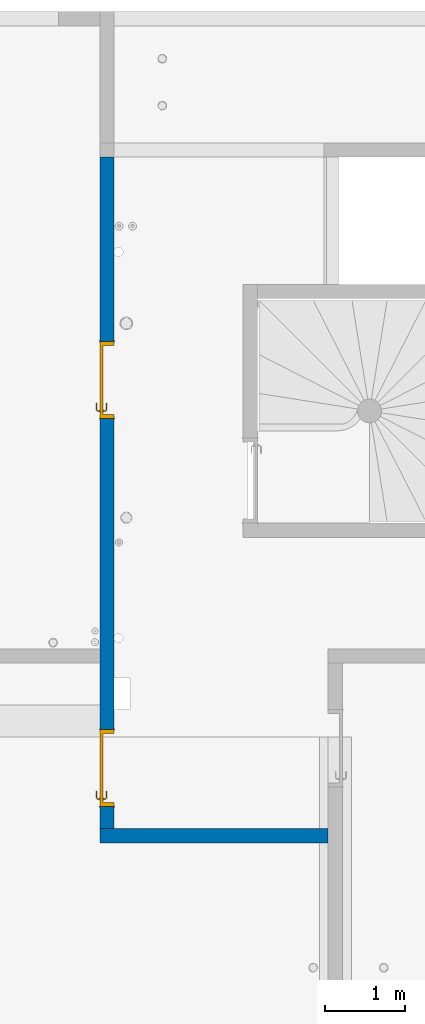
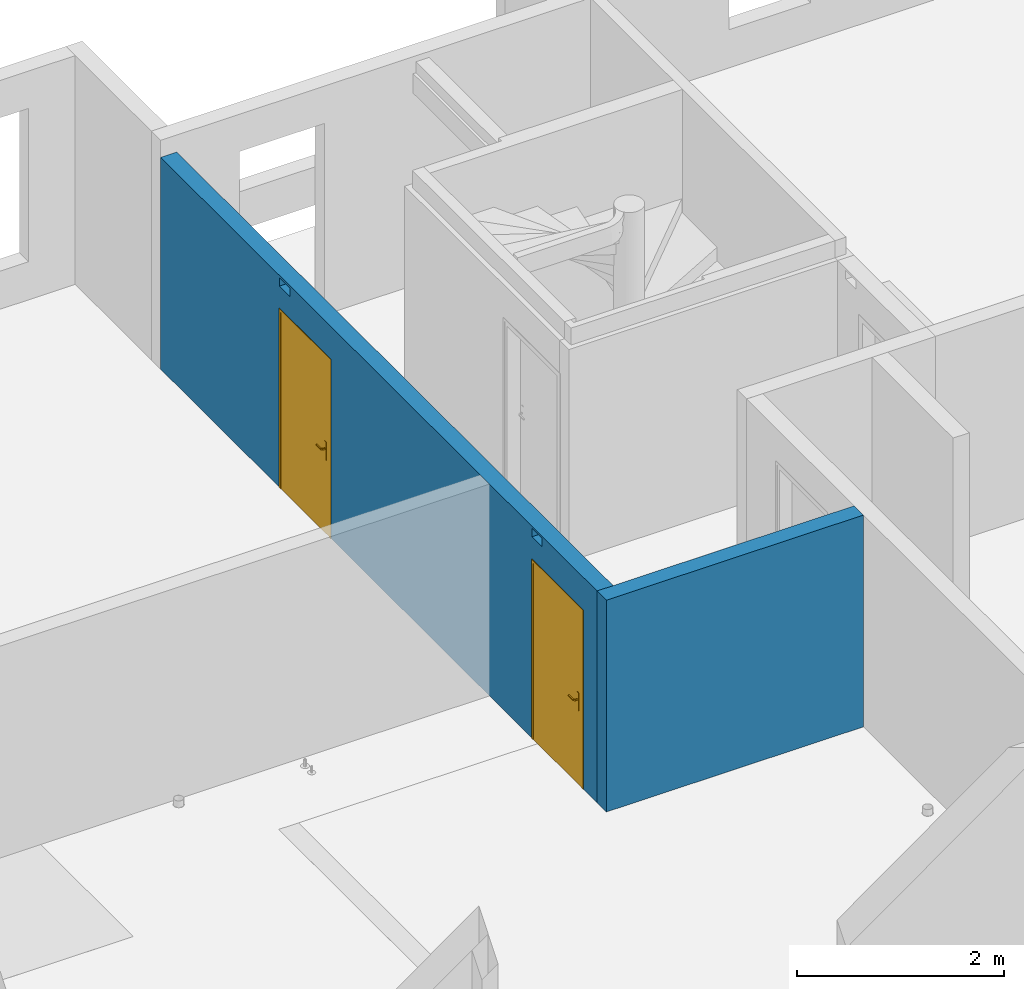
# One storey, part 14 of 34: 2 doors, 2 walls, 4 openings.
"""IFC2X3 building model written with IfcOpenShell, lengths in centimetres."""

import ifcopenshell
import ifcopenshell.guid

model = None  # the IFC model being written
_history = None  # IfcOwnerHistory: only IFC2X3 demands one
_inside = {}  # id of a spatial element -> (the spatial element, [elements in it])
_under = {}  # id of a project, library or spatial element -> (it, [spatial elements below it])
_declared = {}  # id of a project -> (the project, [libraries it declares])
_typed = {}  # id of a type object -> (the type object, [elements of that type])
_made_of = {}  # id of a material, layer set ... -> (it, [elements and type objects made of it])


def new_model(schema):
    """Start an empty IFC model of exactly this schema.

    Asked for "IFC4X3", IfcOpenShell would pick the latest addendum, in which some entities
    have other attributes; the version numbers below select the first issue.
    IFC2X3 requires an IfcOwnerHistory on every rooted entity: one is made here for all.
    """
    global model, _history
    if schema == "IFC4X3":
        model = ifcopenshell.file(schema_version=(4, 3, 0, 0))
    else:
        model = ifcopenshell.file(schema=schema)
    _inside.clear()
    _under.clear()
    _declared.clear()
    _typed.clear()
    _made_of.clear()
    _history = None
    if model.schema == "IFC2X3":
        org = make("IfcOrganization", Name="unknown")
        user = make(
            "IfcPersonAndOrganization",
            ThePerson=make("IfcPerson", FamilyName="unknown"),
            TheOrganization=org,
        )
        app = make(
            "IfcApplication",
            ApplicationDeveloper=org,
            Version="unknown",
            ApplicationFullName="unknown",
            ApplicationIdentifier="unknown",
        )
        _history = make(
            "IfcOwnerHistory",
            OwningUser=user,
            OwningApplication=app,
            ChangeAction="ADDED",
            CreationDate=0,
        )
    return model


def make(cls, **values):
    """One entity of the class cls with the attributes given. An attribute that is None is left unset."""
    return model.create_entity(
        cls, **{name: value for name, value in values.items() if value is not None}
    )


def entity(cls, *values):
    """Any entity or typed value of the class cls, its attributes in the order of the schema. None: left unset."""
    e = model.create_entity(cls)
    for i, value in enumerate(values):
        if value is not None:
            e[i] = value
    return e


def rooted(cls, **values):
    """An entity with a GlobalId (a new one), such as an element, a storey or a relation."""
    return make(cls, GlobalId=ifcopenshell.guid.new(), OwnerHistory=_history, **values)


def si_unit(unit_type, name, prefix=None):
    """IfcSIUnit, for example si_unit("LENGTHUNIT", "METRE", prefix="MILLI")."""
    return make("IfcSIUnit", UnitType=unit_type, Prefix=prefix, Name=name)


def converted_unit(unit_type, name, factor, base, dimensions=None, offset=None):
    """IfcConversionBasedUnit, such as the inch: factor (a typed value) times the base unit."""
    return make(
        "IfcConversionBasedUnit"
        if offset is None
        else "IfcConversionBasedUnitWithOffset",
        ConversionOffset=offset,
        Dimensions=None
        if dimensions is None
        else entity("IfcDimensionalExponents", *dimensions),
        UnitType=unit_type,
        Name=name,
        ConversionFactor=make(
            "IfcMeasureWithUnit", ValueComponent=factor, UnitComponent=base
        ),
    )


def derived_unit(unit_type, elements):
    """IfcDerivedUnit: a product of units, each with its exponent."""
    return make(
        "IfcDerivedUnit",
        Elements=[
            make("IfcDerivedUnitElement", Unit=unit, Exponent=power)
            for unit, power in elements
        ],
        UnitType=unit_type,
    )


def assignment(units):
    """IfcUnitAssignment: the units of a project."""
    return None if units is None else make("IfcUnitAssignment", Units=units)


def point(xyz):
    """IfcCartesianPoint."""
    return None if xyz is None else make("IfcCartesianPoint", Coordinates=xyz)


def direction(xyz):
    """IfcDirection."""
    return None if xyz is None else make("IfcDirection", DirectionRatios=xyz)


def frame(location, z_axis=None, x_axis=None):
    """IfcAxis2Placement3D, a coordinate frame: its origin and axes. An axis left out is left unset."""
    return make(
        "IfcAxis2Placement3D",
        Location=point(location),
        Axis=direction(z_axis),
        RefDirection=direction(x_axis),
    )


def frame_2d(location, x_axis=None):
    """IfcAxis2Placement2D, a coordinate frame in the plane: its origin and x axis."""
    return make(
        "IfcAxis2Placement2D", Location=point(location), RefDirection=direction(x_axis)
    )


def origin():
    """The frame at (0, 0, 0) with its axes left unset."""
    return frame((0.0, 0.0, 0.0))


def place(relative_to, where):
    """IfcLocalPlacement: puts the frame where relative to a parent placement (None: the world)."""
    return make(
        "IfcLocalPlacement", PlacementRelTo=relative_to, RelativePlacement=where
    )


def context(
    kind, dimensions, precision=None, world=None, true_north=None, identifier=None
):
    """IfcGeometricRepresentationContext, for example the 3D "Model" context."""
    return make(
        "IfcGeometricRepresentationContext",
        ContextIdentifier=identifier,
        ContextType=kind,
        CoordinateSpaceDimension=dimensions,
        Precision=precision,
        WorldCoordinateSystem=world,
        TrueNorth=true_north,
    )


def subcontext(parent, identifier, kind, view, scale=None):
    """IfcGeometricRepresentationSubContext, for example "Body" below "Model"."""
    return make(
        "IfcGeometricRepresentationSubContext",
        ContextIdentifier=identifier,
        ContextType=kind,
        ParentContext=parent,
        TargetScale=scale,
        TargetView=view,
    )


def project(units=None, contexts=None):
    """IfcProject with its units and contexts."""
    return rooted(
        "IfcProject",
        Name="project",
        RepresentationContexts=contexts,
        UnitsInContext=assignment(units),
    )


def spatial(cls, under=None, at=None, **own):
    """A site, building, storey or space (cls), placed at a placement, below another one or the project."""
    s = rooted(cls, ObjectPlacement=at, **own)
    if under is not None:
        _under.setdefault(under.id(), (under, []))[1].append(s)
    return s


def profile(cls, at=None, kind="AREA", **sizes):
    """A parametric profile (cls). Its sizes go by their IFC names, for example OverallWidth=200.0."""
    return make(cls, ProfileType=kind, Position=at, **sizes)


def rectangle(**sizes):
    """IfcRectangleProfileDef."""
    return profile("IfcRectangleProfileDef", **sizes)


def extrude(swept, where, along, depth):
    """IfcExtrudedAreaSolid: the profile swept, set in the frame where, extruded along a direction by depth."""
    return make(
        "IfcExtrudedAreaSolid",
        SweptArea=swept,
        Position=where,
        ExtrudedDirection=direction(along),
        Depth=depth,
    )


def faces_of(points, faces, orient=None, outer=None):
    """IfcFace entities. A face is a list of loops; a loop is a list of indices into points, from 0.

    orient and outer hold one flag for each loop. By default every Orientation is true, the
    first loop of a face is its IfcFaceOuterBound and the others are IfcFaceBound.
    """
    made = []
    for i, loops in enumerate(faces):
        bounds = []
        for j, loop in enumerate(loops):
            is_outer = j == 0 if outer is None else outer[i][j]
            bounds.append(
                make(
                    "IfcFaceOuterBound" if is_outer else "IfcFaceBound",
                    Bound=make("IfcPolyLoop", Polygon=[points[k] for k in loop]),
                    Orientation=True if orient is None else orient[i][j],
                )
            )
        made.append(make("IfcFace", Bounds=bounds))
    return made


def faceted_brep(points, faces, orient=None, outer=None, voids=None):
    """IfcFacetedBrep: a solid bounded by flat faces; with voids (closed shells), ...WithVoids."""
    shared = [point(p) for p in points]
    hull = make("IfcClosedShell", CfsFaces=faces_of(shared, faces, orient, outer))
    if voids is None:
        return make("IfcFacetedBrep", Outer=hull)
    return make(
        "IfcFacetedBrepWithVoids",
        Outer=hull,
        Voids=[
            make(cls, CfsFaces=faces_of(shared, fs, o, b)) for cls, fs, o, b in voids
        ],
    )


def shape(context_of_items, identifier, shape_type, items):
    """IfcShapeRepresentation: the items that make up one representation, for example the "Body"."""
    return make(
        "IfcShapeRepresentation",
        ContextOfItems=context_of_items,
        RepresentationIdentifier=identifier,
        RepresentationType=shape_type,
        Items=items,
    )


def source(mapping_origin, context_of_items, identifier, shape_type, items):
    """IfcRepresentationMap: a shape defined once, which mapped items show again and again."""
    return make(
        "IfcRepresentationMap",
        MappingOrigin=mapping_origin,
        MappedRepresentation=shape(context_of_items, identifier, shape_type, items),
    )


def transform(
    local_origin,
    x_axis=None,
    y_axis=None,
    z_axis=None,
    scale=None,
    scale2=None,
    scale3=None,
    uniform=True,
):
    """IfcCartesianTransformationOperator3D, or its non-uniform kind. x_axis, y_axis, z_axis: its Axis1, 2, 3."""
    if uniform:
        return make(
            "IfcCartesianTransformationOperator3D",
            Axis1=direction(x_axis),
            Axis2=direction(y_axis),
            LocalOrigin=point(local_origin),
            Scale=scale,
            Axis3=direction(z_axis),
        )
    return make(
        "IfcCartesianTransformationOperator3DnonUniform",
        Axis1=direction(x_axis),
        Axis2=direction(y_axis),
        LocalOrigin=point(local_origin),
        Scale=scale,
        Axis3=direction(z_axis),
        Scale2=scale2,
        Scale3=scale3,
    )


def mapped(mapping_source, mapping_target):
    """IfcMappedItem: shows the shape of a source again, moved by a transform."""
    return make(
        "IfcMappedItem", MappingSource=mapping_source, MappingTarget=mapping_target
    )


def material(Name=None, Category=None):
    """IfcMaterial."""
    return make("IfcMaterial", Name=Name, Category=Category)


def material_list(materials):
    """IfcMaterialList."""
    return make("IfcMaterialList", Materials=materials)


def layer(
    of_material, thickness, ventilated=None, Name=None, Category=None, Priority=None
):
    """IfcMaterialLayer: one layer of a wall or slab, of a material (None: an air gap)."""
    return make(
        "IfcMaterialLayer",
        Material=of_material,
        LayerThickness=thickness,
        IsVentilated=ventilated,
        Name=Name,
        Category=Category,
        Priority=Priority,
    )


def layer_set(layers, Name=None):
    """IfcMaterialLayerSet."""
    return make("IfcMaterialLayerSet", MaterialLayers=layers, LayerSetName=Name)


def layer_usage(for_layer_set, set_direction, sense, offset, extent=None):
    """IfcMaterialLayerSetUsage: how a layer set lies in its element."""
    return make(
        "IfcMaterialLayerSetUsage",
        ForLayerSet=for_layer_set,
        LayerSetDirection=set_direction,
        DirectionSense=sense,
        OffsetFromReferenceLine=offset,
        ReferenceExtent=extent,
    )


def made_of(thing, what):
    """Note that an element or type object is made of a material, layer set ...; save() writes the relation."""
    if what is not None:
        _made_of.setdefault(what.id(), (what, []))[1].append(thing)
    return thing


def type_object(cls, material=None, **own):
    """A type object (cls), such as IfcWallType, which elements share."""
    return made_of(rooted(cls, **own), material)


def type_shapes(of_type, sources):
    """Give a type object the sources (RepresentationMaps) that its elements show as mapped items."""
    of_type.RepresentationMaps = sources


def element(
    cls,
    number,
    at=None,
    inside=None,
    cuts=None,
    type_object=None,
    material=None,
    context=None,
    identifier="Body",
    shape_type=None,
    held_by="IfcProductDefinitionShape",
    body=None,
    shapes=None,
    **own,
):
    """One element of the class cls, such as IfcWall. Its Tag is "e" and its number.

    at: its placement. inside: the storey or other place that contains it. cuts: it is an
    opening in that element (IfcRelVoidsElement). A single representation is given by context,
    identifier, shape_type and body (its items); several are given by shapes. held_by: the class
    of the entity that holds the representations. save() writes the other relations.
    """
    e = rooted(cls, Tag="e%d" % number, ObjectPlacement=at, **own)
    if body is not None:
        shapes = [shape(context, identifier, shape_type, body)]
    if shapes is not None:
        e.Representation = make(held_by, Representations=shapes)
    if inside is not None:
        _inside.setdefault(inside.id(), (inside, []))[1].append(e)
    if cuts is not None:
        rooted(
            "IfcRelVoidsElement", RelatingBuildingElement=cuts, RelatedOpeningElement=e
        )
    if type_object is not None:
        _typed.setdefault(type_object.id(), (type_object, []))[1].append(e)
    return made_of(e, material)


def fill(opening, filler):
    """IfcRelFillsElement: the door or window that sits in an opening."""
    return rooted(
        "IfcRelFillsElement",
        RelatingOpeningElement=opening,
        RelatedBuildingElement=filler,
    )


def aggregate(whole, parts):
    """IfcRelAggregates: a whole, such as a stair, and the parts it consists of."""
    return rooted("IfcRelAggregates", RelatingObject=whole, RelatedObjects=parts)


def save(model, path):
    """Write the relations noted so far, then the file.

    IfcRelAggregates (storeys below a building ...), IfcRelContainedInSpatialStructure (elements
    in a storey), IfcRelDefinesByType, IfcRelAssociatesMaterial and IfcRelDeclares: one each for
    every whole, place, type object, material and project.
    """
    for whole, parts in _under.values():
        aggregate(whole, parts)
    for where, things in _inside.values():
        rooted(
            "IfcRelContainedInSpatialStructure",
            RelatedElements=things,
            RelatingStructure=where,
        )
    for kind, things in _typed.values():
        rooted("IfcRelDefinesByType", RelatedObjects=things, RelatingType=kind)
    for what, things in _made_of.values():
        rooted("IfcRelAssociatesMaterial", RelatedObjects=things, RelatingMaterial=what)
    for by, libraries in _declared.values():
        rooted("IfcRelDeclares", RelatingContext=by, RelatedDefinitions=libraries)
    model.write(path)


model = new_model("IFC2X3")

# Units and contexts
model_context = context("Model", 3, precision=0.001, world=origin(), true_north=direction((6.12303176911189e-17, 1.0)))
body_context = subcontext(model_context, "Body", "Model", "MODEL_VIEW")
ifc_project = project(units=[si_unit("LENGTHUNIT", "METRE", prefix="CENTI"), si_unit("AREAUNIT", "SQUARE_METRE"), si_unit("VOLUMEUNIT", "CUBIC_METRE"), converted_unit("PLANEANGLEUNIT", "DEGREE", entity("IfcRatioMeasure", 0.0174532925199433), si_unit("PLANEANGLEUNIT", "RADIAN"), dimensions=[0, 0, 0, 0, 0, 0, 0]), si_unit("MASSUNIT", "GRAM", prefix="KILO"), derived_unit("MASSDENSITYUNIT", [(si_unit("MASSUNIT", "GRAM", prefix="KILO"), 1), (si_unit("LENGTHUNIT", "METRE"), -3)]), si_unit("TIMEUNIT", "SECOND"), si_unit("FREQUENCYUNIT", "HERTZ"), si_unit("THERMODYNAMICTEMPERATUREUNIT", "DEGREE_CELSIUS"), derived_unit("THERMALTRANSMITTANCEUNIT", [(si_unit("MASSUNIT", "GRAM", prefix="KILO"), 1), (si_unit("THERMODYNAMICTEMPERATUREUNIT", "KELVIN"), -1), (si_unit("TIMEUNIT", "SECOND"), -3)]), derived_unit("VOLUMETRICFLOWRATEUNIT", [(si_unit("LENGTHUNIT", "METRE"), 3), (si_unit("TIMEUNIT", "SECOND"), -1)]), si_unit("ELECTRICCURRENTUNIT", "AMPERE"), si_unit("ELECTRICVOLTAGEUNIT", "VOLT"), si_unit("POWERUNIT", "WATT"), si_unit("FORCEUNIT", "NEWTON"), si_unit("ILLUMINANCEUNIT", "LUX"), si_unit("LUMINOUSFLUXUNIT", "LUMEN"), si_unit("LUMINOUSINTENSITYUNIT", "CANDELA"), derived_unit("USERDEFINED", [(si_unit("MASSUNIT", "GRAM", prefix="KILO"), -1), (si_unit("LENGTHUNIT", "METRE"), -2), (si_unit("TIMEUNIT", "SECOND"), 3), (si_unit("LUMINOUSFLUXUNIT", "LUMEN"), 1)]), derived_unit("LINEARVELOCITYUNIT", [(si_unit("LENGTHUNIT", "METRE"), 1), (si_unit("TIMEUNIT", "SECOND"), -1)]), si_unit("PRESSUREUNIT", "PASCAL"), derived_unit("USERDEFINED", [(si_unit("LENGTHUNIT", "METRE"), -2), (si_unit("MASSUNIT", "GRAM", prefix="KILO"), 1), (si_unit("TIMEUNIT", "SECOND"), -2)])], contexts=[model_context])

# Site, building, storey
site_placement = place(None, origin())
site = spatial("IfcSite", under=ifc_project, at=site_placement, Name="Default", CompositionType="ELEMENT")
building_placement = place(site_placement, origin())
building = spatial("IfcBuilding", under=site, at=building_placement, Name="CAGE 03", CompositionType="ELEMENT")
storey_placement = place(building_placement, frame((0.0, 0.0, 340.0)))
storey = spatial("IfcBuildingStorey", under=building, at=storey_placement, Name="R+1", CompositionType="ELEMENT", Elevation=340.0)

# Wall
ifc_material_1 = material(Name="Béton, C25/30")
ifc_layer = layer(ifc_material_1, 18.0)
ifc_layer_set = layer_set([ifc_layer], Name="Mur de base:Voile BA 18")
ifc_layer_usage_1 = layer_usage(ifc_layer_set, "AXIS2", "POSITIVE", -9.0)
wall_type = type_object("IfcWallType", Name="Mur de base:Voile BA 18", PredefinedType="STANDARD", material=ifc_layer_set)
wall_1_placement = place(storey_placement, frame((10297.3658201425, 4257.66066607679, 0.0), z_axis=(0.0, 0.0, 1.0), x_axis=(-1.0, 0.0, 0.0)))
element("IfcWallStandardCase", 1, at=wall_1_placement, inside=storey, type_object=wall_type, material=ifc_layer_usage_1, Name="Mur de base:Voile BA 18", ObjectType="Mur de base:Voile BA 18", context=body_context, shape_type="SweptSolid", body=[
    extrude(rectangle(XDim=287.000000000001, YDim=17.9999999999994, at=frame_2d((143.5, -1.60760293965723e-13), x_axis=(-1.0, 0.0))), origin(), (0.0, 0.0, 1.0), 250.0),
])

# Wall, openings, doors
ifc_layer_usage_2 = layer_usage(ifc_layer_set, "AXIS2", "POSITIVE", -9.0)
wall_2_placement = place(storey_placement, frame((10019.3658201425, 4266.66066607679, 0.0), z_axis=(0.0, 0.0, 1.0), x_axis=(0.0, 1.0, 0.0)))
wall_2 = element("IfcWallStandardCase", 2, at=wall_2_placement, inside=storey, type_object=wall_type, material=ifc_layer_usage_2, Name="Mur de base:Voile BA 18", ObjectType="Mur de base:Voile BA 18", context=body_context, shape_type="SweptSolid", body=[
    extrude(rectangle(XDim=844.0, YDim=17.9999999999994, at=frame_2d((422.0, 2.1316282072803e-14), x_axis=(-1.0, 0.0))), origin(), (0.0, 0.0, 1.0), 250.0),
])
opening_1_placement = place(wall_2_placement, origin())
element("IfcOpeningElement", 3, at=opening_1_placement, cuts=wall_2, Name="Mur de base:Voile BA 18", ObjectType="Opening", context=body_context, shape_type="SweptSolid", body=[
    extrude(rectangle(XDim=10.0, YDim=19.9999999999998, at=frame_2d((5.41788836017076e-14, 4.33431068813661e-13), x_axis=(1.0, 0.0))), frame((604.0, -9.0, 242.5), z_axis=(0.0, 1.0, 0.0), x_axis=(0.0, 0.0, -1.0)), (0.0, 0.0, 1.0), 17.9999999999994),
])
opening_2_placement = place(wall_2_placement, origin())
element("IfcOpeningElement", 4, at=opening_2_placement, cuts=wall_2, Name="Mur de base:Voile BA 18", ObjectType="Opening", context=body_context, shape_type="SweptSolid", body=[
    extrude(rectangle(XDim=10.0, YDim=19.9999999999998, at=frame_2d((5.41788836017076e-14, -4.33431068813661e-13), x_axis=(1.0, 0.0))), frame((116.0, -9.0, 242.5), z_axis=(0.0, 1.0, 0.0), x_axis=(0.0, 0.0, -1.0)), (0.0, 0.0, 1.0), 17.9999999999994),
])
opening_3_placement = place(wall_2_placement, frame((515.499999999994, -9.0, 0.0)))
opening_3 = element("IfcOpeningElement", 5, at=opening_3_placement, cuts=wall_2, Name="Int. Simple:HB93:1", ObjectType="Opening", context=body_context, shape_type="SweptSolid", body=[
    extrude(rectangle(XDim=210.000000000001, YDim=96.9999999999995, at=frame_2d((105.000000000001, 48.4999999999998), x_axis=(1.0, 0.0))), frame((0.0, 0.0, 0.0), z_axis=(0.0, 1.0, 0.0), x_axis=(0.0, 0.0, 1.0)), (0.0, 0.0, 1.0), 18.0),
])
opening_4_placement = place(wall_2_placement, frame((27.4999999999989, -9.0, 0.0)))
opening_4 = element("IfcOpeningElement", 6, at=opening_4_placement, cuts=wall_2, Name="Int. Simple:HB93:1", ObjectType="Opening", context=body_context, shape_type="SweptSolid", body=[
    extrude(rectangle(XDim=210.000000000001, YDim=96.9999999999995, at=frame_2d((105.000000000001, 48.4999999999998), x_axis=(1.0, 0.0))), frame((0.0, 0.0, 0.0), z_axis=(0.0, 1.0, 0.0), x_axis=(0.0, 0.0, 1.0)), (0.0, 0.0, 1.0), 18.0),
])
ifc_material_2 = material(Name="Finition Peinture - Blanc satiné")
ifc_material_3 = material(Name="Bois - Panneau de porte")
ifc_material_4 = material(Name="Bois - Cadre de porte")
ifc_material_list_1 = material_list([ifc_material_2, ifc_material_3, ifc_material_4])
ifc_material_list_2 = material_list([ifc_material_2, ifc_material_3, ifc_material_4])
door_style = type_object("IfcDoorStyle", Name="HB93", ConstructionType="NOTDEFINED", OperationType="SINGLE_SWING_RIGHT", ParameterTakesPrecedence=False, Sizeable=False, material=ifc_material_list_2)
shared_shape = source(origin(), body_context, "Body", "Brep", [
    faceted_brep([(96.5000000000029, -0.500000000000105, 87.0), (96.5000000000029, -0.500000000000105, 108.0), (95.535276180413, -0.500000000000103, 108.399601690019), (94.5000000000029, -0.500000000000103, 108.535898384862), (93.4647238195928, -0.500000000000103, 108.399601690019), (92.5000000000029, -0.500000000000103, 108.0), (92.5000000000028, -0.500000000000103, 87.0), (93.4647238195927, -0.500000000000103, 86.6003983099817), (94.5000000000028, -0.500000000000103, 86.464101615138), (95.5352761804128, -0.500000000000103, 86.6003983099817), (96.5000000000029, 0.0, 108.0), (96.5000000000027, 0.0, 87.0), (95.5352761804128, 0.0, 86.6003983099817), (94.5000000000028, 0.0, 86.464101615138), (93.4647238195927, 0.0, 86.6003983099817), (92.5000000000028, 0.0, 87.0), (92.5000000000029, 0.0, 108.0), (93.4647238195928, 0.0, 108.399601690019), (94.5000000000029, 0.0, 108.535898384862), (95.535276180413, 0.0, 108.399601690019)], [[[0, 1, 2, 3, 4, 5, 6, 7, 8, 9]], [[10, 11, 12, 13, 14, 15, 16, 17, 18, 19]], [[9, 12, 11, 0]], [[8, 13, 12, 9]], [[7, 14, 13, 8]], [[7, 6, 15, 14]], [[15, 6, 5, 16]], [[4, 17, 16, 5]], [[3, 18, 17, 4]], [[2, 19, 18, 3]], [[2, 1, 10, 19]], [[11, 10, 1, 0]]]),
    faceted_brep([(96.5000000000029, 4.0, 87.0), (96.5000000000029, 4.0, 108.0), (95.535276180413, 4.0, 108.399601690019), (94.5000000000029, 4.0, 108.535898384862), (93.4647238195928, 4.0, 108.399601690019), (92.500000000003, 4.0, 108.0), (92.5000000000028, 4.0, 87.0), (93.4647238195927, 4.0, 86.6003983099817), (94.5000000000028, 4.0, 86.464101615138), (95.5352761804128, 4.0, 86.6003983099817), (94.5000000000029, 4.49999999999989, 108.535898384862), (95.535276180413, 4.49999999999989, 108.399601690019), (96.5000000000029, 4.49999999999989, 108.0), (96.5000000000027, 4.49999999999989, 87.0), (95.5352761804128, 4.49999999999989, 86.6003983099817), (94.5000000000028, 4.49999999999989, 86.464101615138), (93.4647238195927, 4.49999999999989, 86.6003983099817), (92.5000000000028, 4.4999999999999, 87.0), (92.5000000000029, 4.4999999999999, 108.0), (93.4647238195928, 4.49999999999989, 108.399601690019)], [[[0, 1, 2, 3, 4, 5, 6, 7, 8, 9]], [[10, 11, 12, 13, 14, 15, 16, 17, 18, 19]], [[4, 19, 18, 5]], [[3, 10, 19, 4]], [[2, 11, 10, 3]], [[2, 1, 12, 11]], [[13, 12, 1, 0]], [[9, 14, 13, 0]], [[8, 15, 14, 9]], [[7, 16, 15, 8]], [[7, 6, 17, 16]], [[17, 6, 5, 18]]]),
    faceted_brep([(94.2974701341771, -0.500000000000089, 100.778044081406), (94.7025298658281, -0.500000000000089, 100.778044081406), (95.100000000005, -0.500000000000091, 100.699999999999), (95.100000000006, -0.500000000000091, 99.2999999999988), (94.7025298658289, -0.500000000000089, 99.221955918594), (94.297470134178, -0.500000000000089, 99.2219559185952), (93.9000000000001, -0.500000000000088, 99.3000000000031), (93.9000000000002, -0.500000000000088, 100.7), (94.7025298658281, -3.10045754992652, 100.778044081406), (95.1000000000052, -3.26509507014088, 100.7), (94.2974701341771, -2.93267631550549, 100.778044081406), (92.9298602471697, -4.30028620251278, 100.778044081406), (93.0976414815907, -4.70534593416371, 100.778044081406), (93.9000000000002, -2.76803879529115, 100.7), (93.9000000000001, -2.76803879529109, 99.3000000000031), (94.297470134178, -2.93267631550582, 99.2219559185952), (94.7025298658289, -3.10045754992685, 99.221955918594), (93.0976414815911, -4.70534593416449, 99.221955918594), (92.9298602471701, -4.30028620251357, 99.2219559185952), (95.100000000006, -3.26509507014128, 99.2999999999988), (93.2622790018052, -5.1028160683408, 100.7), (92.7652227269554, -3.90281606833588, 100.7), (92.7652227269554, -3.90281606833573, 99.3000000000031), (93.2622790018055, -5.10281606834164, 99.2999999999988), (84.4981359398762, -5.10281606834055, 100.7), (84.4981359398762, -4.70534593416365, 100.778044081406), (84.4981359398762, -4.30028620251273, 100.778044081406), (84.4981359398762, -3.90281606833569, 100.699999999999), (84.4981359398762, -3.90281606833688, 99.3000000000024), (84.4981359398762, -4.30028620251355, 99.2219559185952), (84.4981359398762, -4.70534593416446, 99.221955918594), (84.4981359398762, -5.10281606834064, 99.2999999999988), (88.7139980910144, -4.5028160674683, 100.78786867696), (89.2692302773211, -5.1028160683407, 100.7), (88.6316793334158, -3.90281606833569, 100.7), (88.631679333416, -3.90281606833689, 99.3000000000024), (88.7139981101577, -4.50281607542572, 99.2121313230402), (89.2692310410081, -5.10281606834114, 99.2999999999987)], [[[0, 1, 2, 3, 4, 5, 6, 7]], [[2, 1, 8, 9]], [[1, 0, 10, 11, 12, 8]], [[0, 7, 13, 10]], [[14, 13, 7, 6]], [[5, 15, 14, 6]], [[5, 4, 16, 17, 18, 15]], [[3, 19, 16, 4]], [[9, 19, 3, 2]], [[9, 8, 12, 20]], [[10, 13, 21, 11]], [[22, 21, 13, 14]], [[14, 15, 18, 22]], [[16, 19, 23, 17]], [[20, 23, 19, 9]], [[24, 25, 26, 27, 28, 29, 30, 31]], [[32, 25, 33]], [[33, 25, 24]], [[33, 20, 12]], [[11, 34, 32]], [[34, 11, 21]], [[27, 26, 34]], [[32, 26, 25]], [[32, 34, 26]], [[32, 33, 12]], [[11, 32, 12]], [[21, 22, 35, 28, 27, 34]], [[36, 29, 35]], [[30, 36, 37]], [[18, 35, 22]], [[29, 28, 35]], [[30, 37, 31]], [[37, 17, 23]], [[36, 17, 37]], [[36, 18, 17]], [[36, 35, 18]], [[29, 36, 30]], [[23, 20, 33, 24, 31, 37]]]),
    faceted_brep([(94.2974701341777, 4.49999999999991, 99.2219559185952), (94.7025298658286, 4.49999999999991, 99.221955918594), (95.1000000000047, 4.49999999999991, 99.2999999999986), (95.1000000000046, 4.49999999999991, 100.7), (94.7025298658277, 4.49999999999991, 100.778044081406), (94.2974701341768, 4.49999999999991, 100.778044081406), (93.8999999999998, 4.49999999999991, 100.7), (93.900000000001, 4.49999999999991, 99.3000000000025), (93.8999999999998, 6.7485204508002, 100.7), (93.8999999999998, 6.74852045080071, 99.3000000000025), (94.2974701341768, 6.91315797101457, 100.778044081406), (94.7025298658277, 7.0809392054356, 100.778044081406), (93.0838906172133, 8.69957845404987, 100.778044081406), (92.9161093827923, 8.29451872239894, 100.778044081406), (95.1000000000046, 7.24557672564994, 100.7), (95.1000000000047, 7.24557672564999, 99.2999999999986), (94.7025298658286, 7.08093920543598, 99.221955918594), (94.2974701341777, 6.91315797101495, 99.2219559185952), (92.9161093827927, 8.29451872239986, 99.2219559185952), (93.0838906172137, 8.69957845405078, 99.221955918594), (92.751471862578, 7.89704858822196, 100.7), (92.7514718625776, 7.89704858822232, 99.3000000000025), (93.2485281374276, 9.09704858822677, 100.7), (93.2485281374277, 9.09704858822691, 99.2999999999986), (84.4954216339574, 8.29451872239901, 100.778044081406), (84.4954216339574, 8.69957845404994, 100.778044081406), (84.4954216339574, 9.09704858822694, 100.7), (84.4954216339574, 9.09704858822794, 99.2999999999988), (84.4954216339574, 8.6995784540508, 99.221955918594), (84.4954216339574, 8.29451872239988, 99.2219559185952), (84.4954216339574, 7.89704858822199, 99.3000000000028), (84.4954216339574, 7.89704858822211, 100.7), (88.6234467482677, 7.89704858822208, 100.7), (88.6234479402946, 7.89704858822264, 99.3000000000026), (88.7057655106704, 8.49704858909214, 100.78786867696), (89.255479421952, 9.09704858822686, 100.7), (89.2554795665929, 9.09704858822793, 99.2999999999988), (88.7057654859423, 8.49704858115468, 99.2121313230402)], [[[0, 1, 2, 3, 4, 5, 6, 7]], [[8, 9, 7, 6]], [[5, 10, 8, 6]], [[5, 4, 11, 12, 13, 10]], [[3, 14, 11, 4]], [[14, 3, 2, 15]], [[2, 1, 16, 15]], [[1, 0, 17, 18, 19, 16]], [[0, 7, 9, 17]], [[20, 21, 9, 8]], [[8, 10, 13, 20]], [[14, 22, 12, 11]], [[23, 22, 14, 15]], [[15, 16, 19, 23]], [[17, 9, 21, 18]], [[24, 25, 26, 27, 28, 29, 30, 31]], [[21, 20, 32, 31, 30, 33]], [[34, 24, 32]], [[25, 34, 35]], [[13, 32, 20]], [[24, 31, 32]], [[25, 35, 26]], [[35, 12, 22]], [[34, 12, 35]], [[34, 13, 12]], [[34, 32, 13]], [[24, 34, 25]], [[22, 23, 36, 27, 26, 35]], [[37, 28, 36]], [[36, 28, 27]], [[36, 23, 19]], [[18, 33, 37]], [[33, 18, 21]], [[30, 29, 33]], [[37, 29, 28]], [[37, 33, 29]], [[37, 36, 19]], [[18, 37, 19]]]),
    faceted_brep([(100.500000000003, 4.0, 206.5), (100.500000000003, 4.0, 0.0), (10.5000000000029, 4.0, 0.0), (10.5000000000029, 4.0, 206.5), (100.500000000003, 0.0, 206.5), (10.5000000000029, 0.0, 206.5), (10.5000000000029, 0.0, 0.0), (100.500000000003, 0.0, 0.0)], [[[0, 1, 2, 3]], [[4, 5, 6, 7]], [[3, 5, 4, 0]], [[2, 6, 5, 3]], [[1, 7, 6, 2]], [[0, 4, 7, 1]]]),
    faceted_brep([(104.0, 0.0, 0.0), (100.500000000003, 0.0, 0.0), (100.500000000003, 4.0, 0.0), (99.0, 4.0, 0.0), (99.0, 18.0, 0.0), (104.0, 18.0, 0.0), (104.0, 18.0, 210.0), (104.0, 0.0, 210.0), (99.0, 18.0, 205.0), (12.0, 18.0, 205.0), (12.0, 18.0, 0.0), (7.0, 18.0, 0.0), (7.0, 18.0, 210.0), (99.0, 4.0, 205.0), (100.500000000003, 4.0, 206.5), (10.5000000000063, 4.0, 206.5), (10.5000000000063, 4.0, 0.0), (12.0, 4.0, 0.0), (12.0, 4.0, 205.0), (100.500000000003, 0.0, 206.5), (7.0, 0.0, 210.0), (7.0, 0.0, 0.0), (10.5000000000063, 0.0, 0.0), (10.5000000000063, 0.0, 206.5)], [[[0, 1, 2, 3, 4, 5]], [[5, 6, 7, 0]], [[4, 8, 9, 10, 11, 12, 6, 5]], [[3, 13, 8, 4]], [[2, 14, 15, 16, 17, 18, 13, 3]], [[1, 19, 14, 2]], [[0, 7, 20, 21, 22, 23, 19, 1]], [[12, 11, 21, 20]], [[21, 11, 10, 17, 16, 22]], [[18, 17, 10, 9]], [[23, 22, 16, 15]], [[6, 12, 20, 7]], [[13, 18, 9, 8]], [[19, 23, 15, 14]]]),
    faceted_brep([(102.500000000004, 18.0, 0.0), (102.500000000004, 18.5000000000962, 0.0), (105.500000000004, 18.5000000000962, 0.0), (105.500000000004, 18.0, 0.0), (105.500000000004, 18.0, 211.500000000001), (5.50000000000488, 18.0, 211.500000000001), (5.50000000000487, 18.0, 0.0), (8.50000000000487, 18.0, 0.0), (8.50000000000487, 18.0, 208.500000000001), (102.500000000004, 18.0, 208.500000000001), (105.500000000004, 18.5000000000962, 211.500000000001), (102.500000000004, 18.5000000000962, 208.500000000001), (8.50000000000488, 18.5000000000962, 208.500000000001), (8.50000000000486, 18.5000000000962, 0.0), (5.50000000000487, 18.5000000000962, 0.0), (5.50000000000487, 18.5000000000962, 211.500000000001)], [[[0, 1, 2, 3]], [[3, 4, 5, 6, 7, 8, 9, 0]], [[2, 10, 4, 3]], [[1, 11, 12, 13, 14, 15, 10, 2]], [[0, 9, 11, 1]], [[7, 6, 14, 13]], [[8, 7, 13, 12]], [[15, 14, 6, 5]], [[10, 15, 5, 4]], [[9, 8, 12, 11]]]),
    faceted_brep([(105.500000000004, -0.5, 0.0), (105.500000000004, -0.5, 211.500000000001), (5.50000000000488, -0.5, 211.500000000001), (5.50000000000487, -0.5, 0.0), (8.50000000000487, -0.5, 0.0), (8.50000000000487, -0.5, 208.500000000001), (102.500000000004, -0.5, 208.500000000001), (102.500000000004, -0.5, 0.0), (105.500000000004, 0.0, 0.0), (105.500000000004, 0.0, 211.500000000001), (102.500000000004, 0.0, 0.0), (102.500000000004, 0.0, 208.500000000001), (8.50000000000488, 0.0, 208.500000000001), (8.50000000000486, 0.0, 0.0), (5.50000000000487, 0.0, 0.0), (5.50000000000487, 0.0, 211.500000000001)], [[[0, 1, 2, 3, 4, 5, 6, 7]], [[8, 9, 1, 0]], [[10, 11, 12, 13, 14, 15, 9, 8]], [[7, 6, 11, 10]], [[5, 4, 13, 12]], [[15, 14, 3, 2]], [[9, 15, 2, 1]], [[6, 5, 12, 11]], [[4, 3, 14, 13]], [[7, 10, 8, 0]]]),
])
type_shapes(door_style, [shared_shape])
door_1_placement = place(opening_3_placement, frame((104.0, 18.0, 0.0), z_axis=(0.0, 0.0, 1.0), x_axis=(-1.0, 0.0, 0.0)))
door_1 = element("IfcDoor", 7, at=door_1_placement, inside=storey, type_object=door_style, material=ifc_material_list_1, Name="Int. Simple:HB93", ObjectType="HB93", OverallHeight=210.000000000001, OverallWidth=96.9999999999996, context=body_context, shape_type="MappedRepresentation", body=[
    mapped(shared_shape, transform((0.0, 0.0, 0.0), scale=1.0)),
])
fill(opening_3, door_1)
ifc_material_list_3 = material_list([ifc_material_2, ifc_material_3, ifc_material_4])
door_2_placement = place(opening_4_placement, frame((104.0, 18.0, 0.0), z_axis=(0.0, 0.0, 1.0), x_axis=(-1.0, 0.0, 0.0)))
door_2 = element("IfcDoor", 8, at=door_2_placement, inside=storey, type_object=door_style, material=ifc_material_list_3, Name="Int. Simple:HB93", ObjectType="HB93", OverallHeight=210.000000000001, OverallWidth=96.9999999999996, context=body_context, shape_type="MappedRepresentation", body=[
    mapped(shared_shape, transform((0.0, 0.0, 0.0), scale=1.0)),
])
fill(opening_4, door_2)

save(model, "model.ifc")
